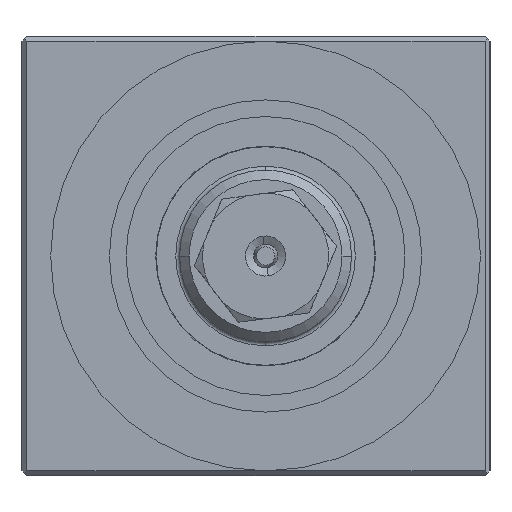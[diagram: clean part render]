
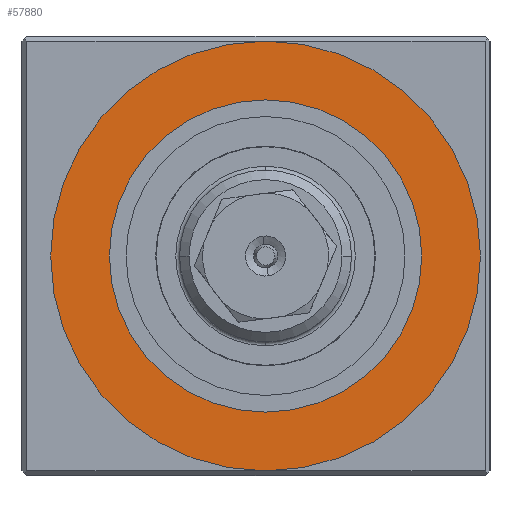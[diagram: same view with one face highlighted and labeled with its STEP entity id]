
A CAD part, left-side view. The second image highlights one B-rep face of the part: STEP entity #57880.
In plain terms, the highlighted planar face has unit normal (-1, 0, 0).
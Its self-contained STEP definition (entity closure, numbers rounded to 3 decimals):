
#798 = DIRECTION ( 'NONE',  ( 0., 0., 1. ) ) ;
#1149 = AXIS2_PLACEMENT_3D ( 'NONE', #21257, #53316, #25933 ) ;
#1838 = EDGE_CURVE ( 'NONE', #33712, #18382, #34647, .T. ) ;
#4733 = ORIENTED_EDGE ( 'NONE', *, *, #28755, .F. ) ;
#5142 = EDGE_LOOP ( 'NONE', ( #21420, #41234 ) ) ;
#7717 = EDGE_LOOP ( 'NONE', ( #34061, #4733 ) ) ;
#8910 = VERTEX_POINT ( 'NONE', #20336 ) ;
#9837 = CARTESIAN_POINT ( 'NONE',  ( -5., -23., 0. ) ) ;
#10932 = AXIS2_PLACEMENT_3D ( 'NONE', #55916, #28518, #798 ) ;
#13139 = AXIS2_PLACEMENT_3D ( 'NONE', #24800, #56774, #29345 ) ;
#14973 = CIRCLE ( 'NONE', #1149, 22.5 ) ;
#16254 = VERTEX_POINT ( 'NONE', #9837 ) ;
#17543 = CARTESIAN_POINT ( 'NONE',  ( -5., -0.5, -16.35 ) ) ;
#18382 = VERTEX_POINT ( 'NONE', #17543 ) ;
#20336 = CARTESIAN_POINT ( 'NONE',  ( -5., 22., 0. ) ) ;
#21257 = CARTESIAN_POINT ( 'NONE',  ( -5., -0.5, 0. ) ) ;
#21420 = ORIENTED_EDGE ( 'NONE', *, *, #58728, .T. ) ;
#21554 = DIRECTION ( 'NONE',  ( 1., 0., 0. ) ) ;
#24597 = DIRECTION ( 'NONE',  ( -1., 0., 0. ) ) ;
#24800 = CARTESIAN_POINT ( 'NONE',  ( -5., -0.5, 0. ) ) ;
#25033 = AXIS2_PLACEMENT_3D ( 'NONE', #51998, #24597, #56566 ) ;
#25933 = DIRECTION ( 'NONE',  ( 0., 1., 0. ) ) ;
#27031 = EDGE_CURVE ( 'NONE', #16254, #8910, #32827, .T. ) ;
#28518 = DIRECTION ( 'NONE',  ( -1., 0., 0. ) ) ;
#28755 = EDGE_CURVE ( 'NONE', #18382, #33712, #46812, .T. ) ;
#29345 = DIRECTION ( 'NONE',  ( 0., 0., 1. ) ) ;
#31614 = CARTESIAN_POINT ( 'NONE',  ( -5., -0.5, 16.35 ) ) ;
#32827 = CIRCLE ( 'NONE', #25033, 22.5 ) ;
#33712 = VERTEX_POINT ( 'NONE', #31614 ) ;
#34061 = ORIENTED_EDGE ( 'NONE', *, *, #1838, .F. ) ;
#34647 = CIRCLE ( 'NONE', #10932, 16.35 ) ;
#36109 = FACE_BOUND ( 'NONE', #7717, .T. ) ;
#41234 = ORIENTED_EDGE ( 'NONE', *, *, #27031, .T. ) ;
#44240 = PLANE ( 'NONE',  #47395 ) ;
#46812 = CIRCLE ( 'NONE', #13139, 16.35 ) ;
#47395 = AXIS2_PLACEMENT_3D ( 'NONE', #48963, #21554, #53587 ) ;
#48207 = FACE_OUTER_BOUND ( 'NONE', #5142, .T. ) ;
#48963 = CARTESIAN_POINT ( 'NONE',  ( -5., -0.5, -22.5 ) ) ;
#51998 = CARTESIAN_POINT ( 'NONE',  ( -5., -0.5, 0. ) ) ;
#53316 = DIRECTION ( 'NONE',  ( -1., 0., 0. ) ) ;
#53587 = DIRECTION ( 'NONE',  ( 0., -1., 0. ) ) ;
#55916 = CARTESIAN_POINT ( 'NONE',  ( -5., -0.5, 0. ) ) ;
#56566 = DIRECTION ( 'NONE',  ( 0., 1., 0. ) ) ;
#56774 = DIRECTION ( 'NONE',  ( -1., 0., 0. ) ) ;
#57880 = ADVANCED_FACE ( 'NONE', ( #48207, #36109 ), #44240, .F. ) ;
#58728 = EDGE_CURVE ( 'NONE', #8910, #16254, #14973, .T. ) ;
